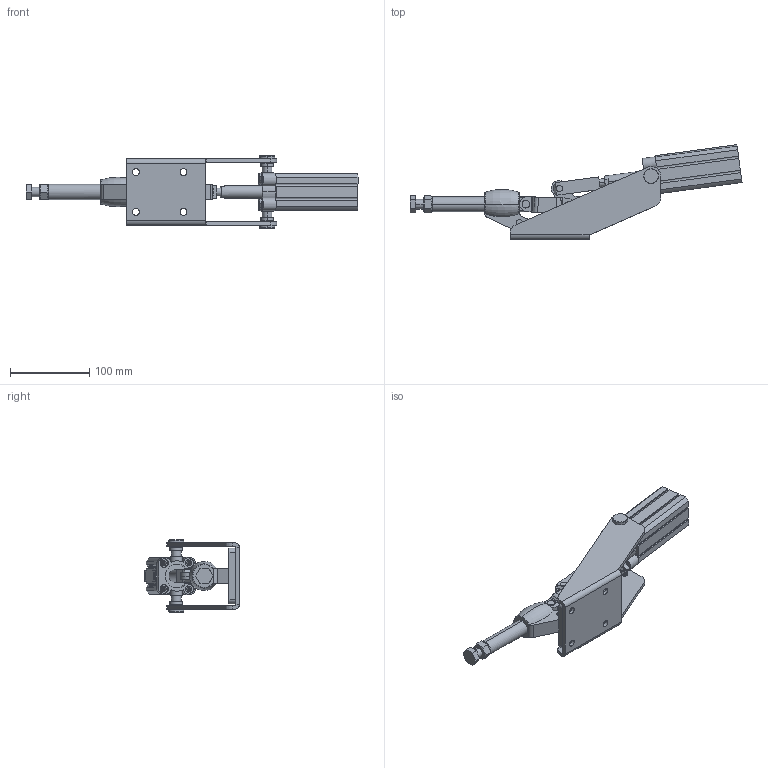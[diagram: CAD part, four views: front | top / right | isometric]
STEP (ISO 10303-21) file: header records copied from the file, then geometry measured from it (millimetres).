
FILE_DESCRIPTION (( 'STEP AP203' ), '1' );
FILE_NAME ('KF-052 P.STEP', '2014-08-28T18:38:12', ( 'Ricardo' ), ( '' ), 'SwSTEP 2.0', 'SolidWorks 2013', '' );
FILE_SCHEMA (( 'CONFIG_CONTROL_DESIGN' ));
Length unit declared in the file: millimetre
Products named in the file (19): 12.50022; 01.10090; PP-M12; 15.10087; HI_CD55B32-60(0)_BODY; 15.20008; HI_C55B32-60M(0)_ROD; CNKFE032KT; 02.30010; CD55B32-60M_avan㌢do; 16.20067; 03.20039; KF-052 P; 501-016; 08.10043; 06.50015; 06.50026; 11.50004; 01.10089
Assembly tree (23 placements, depth 3):
  KF-052 P
    02.30010
    03.20039
    08.10043  x2
    06.50026  x3
    01.10089
    01.10090
    15.10087
    15.20008
    CNKFE032KT
    16.20067  x2
    501-016  x2
    06.50015
    PP-M12
      11.50004
      12.50022
    CD55B32-60M_avan㌢do
      HI_CD55B32-60(0)_BODY
      HI_C55B32-60M(0)_ROD
Bounding box: 417.75 x 118.96 x 91.5 mm (x, y, z)
Volume: 462424.4 mm3; surface area: 186256 mm2
Topology: 21 solids, 21 shells, 1006 faces, 2540 edges, 1634 vertices
Faces by surface type: plane 412, cylinder 321, bspline 200, cone 66, torus 7
Entity records: 37710 total; most frequent: CARTESIAN_POINT 14508, ORIENTED_EDGE 4584, DIRECTION 3908, EDGE_CURVE 2292, VERTEX_POINT 1495, AXIS2_PLACEMENT_3D 1325, VECTOR 1258, LINE 1258
